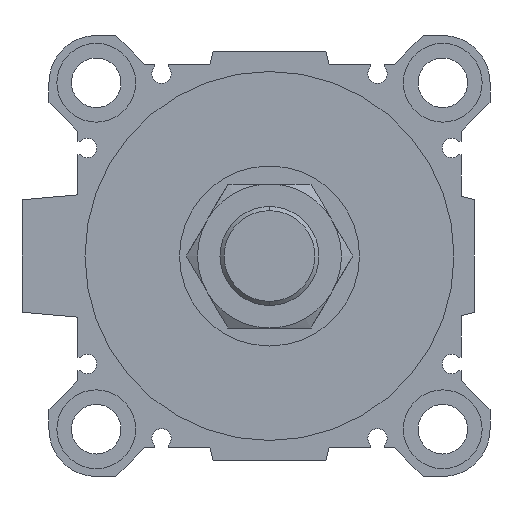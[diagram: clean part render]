
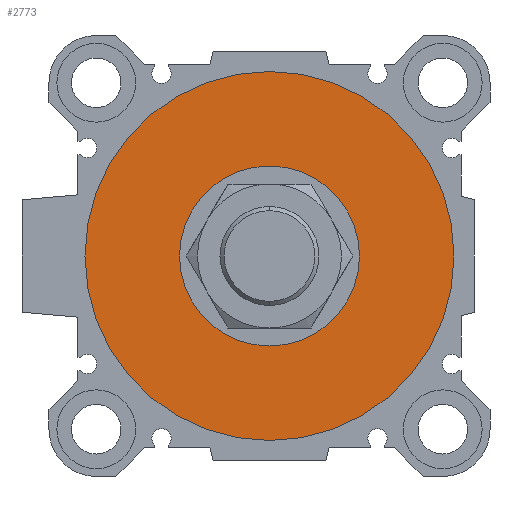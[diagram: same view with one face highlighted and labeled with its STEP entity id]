
A CAD part, left-side view. The second image highlights one B-rep face of the part: STEP entity #2773.
In plain terms, the highlighted planar face has unit normal (-1, 0, 0).
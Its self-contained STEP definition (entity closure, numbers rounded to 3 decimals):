
#30 = ORIENTED_EDGE ( 'NONE', *, *, #1460, .F. ) ;
#35 = DIRECTION ( 'NONE',  ( 0., 0., -1. ) ) ;
#270 = AXIS2_PLACEMENT_3D ( 'NONE', #2397, #5323, #5966 ) ;
#346 = CIRCLE ( 'NONE', #946, 41. ) ;
#421 = VERTEX_POINT ( 'NONE', #2762 ) ;
#612 = CIRCLE ( 'NONE', #4915, 20. ) ;
#655 = AXIS2_PLACEMENT_3D ( 'NONE', #4835, #1868, #5970 ) ;
#921 = EDGE_LOOP ( 'NONE', ( #30, #5883 ) ) ;
#939 = DIRECTION ( 'NONE',  ( 1., 0., 0. ) ) ;
#946 = AXIS2_PLACEMENT_3D ( 'NONE', #6861, #1613, #6326 ) ;
#1090 = CARTESIAN_POINT ( 'NONE',  ( 5., 0., 0. ) ) ;
#1099 = CARTESIAN_POINT ( 'NONE',  ( 5., 0., -41. ) ) ;
#1107 = CARTESIAN_POINT ( 'NONE',  ( 5., 0., 41. ) ) ;
#1173 = PLANE ( 'NONE',  #270 ) ;
#1460 = EDGE_CURVE ( 'NONE', #2312, #4555, #346, .T. ) ;
#1574 = ORIENTED_EDGE ( 'NONE', *, *, #2681, .T. ) ;
#1613 = DIRECTION ( 'NONE',  ( 1., 0., 0. ) ) ;
#1868 = DIRECTION ( 'NONE',  ( 1., 0., 0. ) ) ;
#2312 = VERTEX_POINT ( 'NONE', #1107 ) ;
#2397 = CARTESIAN_POINT ( 'NONE',  ( 5., 0., 0. ) ) ;
#2413 = ORIENTED_EDGE ( 'NONE', *, *, #7197, .T. ) ;
#2434 = CARTESIAN_POINT ( 'NONE',  ( 5., 0., 20. ) ) ;
#2485 = CIRCLE ( 'NONE', #3594, 41. ) ;
#2681 = EDGE_CURVE ( 'NONE', #421, #5539, #612, .T. ) ;
#2762 = CARTESIAN_POINT ( 'NONE',  ( 5., 0., -20. ) ) ;
#2773 = ADVANCED_FACE ( 'NONE', ( #6427, #6499 ), #1173, .F. ) ;
#3594 = AXIS2_PLACEMENT_3D ( 'NONE', #1090, #939, #5767 ) ;
#3864 = EDGE_CURVE ( 'NONE', #4555, #2312, #2485, .T. ) ;
#4555 = VERTEX_POINT ( 'NONE', #1099 ) ;
#4835 = CARTESIAN_POINT ( 'NONE',  ( 5., 0., 0. ) ) ;
#4915 = AXIS2_PLACEMENT_3D ( 'NONE', #6960, #5843, #35 ) ;
#5323 = DIRECTION ( 'NONE',  ( 1., 0., 0. ) ) ;
#5539 = VERTEX_POINT ( 'NONE', #2434 ) ;
#5767 = DIRECTION ( 'NONE',  ( 0., 0., -1. ) ) ;
#5843 = DIRECTION ( 'NONE',  ( 1., 0., 0. ) ) ;
#5883 = ORIENTED_EDGE ( 'NONE', *, *, #3864, .F. ) ;
#5966 = DIRECTION ( 'NONE',  ( 0., 1., 0. ) ) ;
#5970 = DIRECTION ( 'NONE',  ( 0., 0., -1. ) ) ;
#6326 = DIRECTION ( 'NONE',  ( 0., 0., -1. ) ) ;
#6427 = FACE_OUTER_BOUND ( 'NONE', #921, .T. ) ;
#6499 = FACE_BOUND ( 'NONE', #6995, .T. ) ;
#6861 = CARTESIAN_POINT ( 'NONE',  ( 5., 0., 0. ) ) ;
#6960 = CARTESIAN_POINT ( 'NONE',  ( 5., 0., 0. ) ) ;
#6995 = EDGE_LOOP ( 'NONE', ( #2413, #1574 ) ) ;
#7152 = CIRCLE ( 'NONE', #655, 20. ) ;
#7197 = EDGE_CURVE ( 'NONE', #5539, #421, #7152, .T. ) ;
